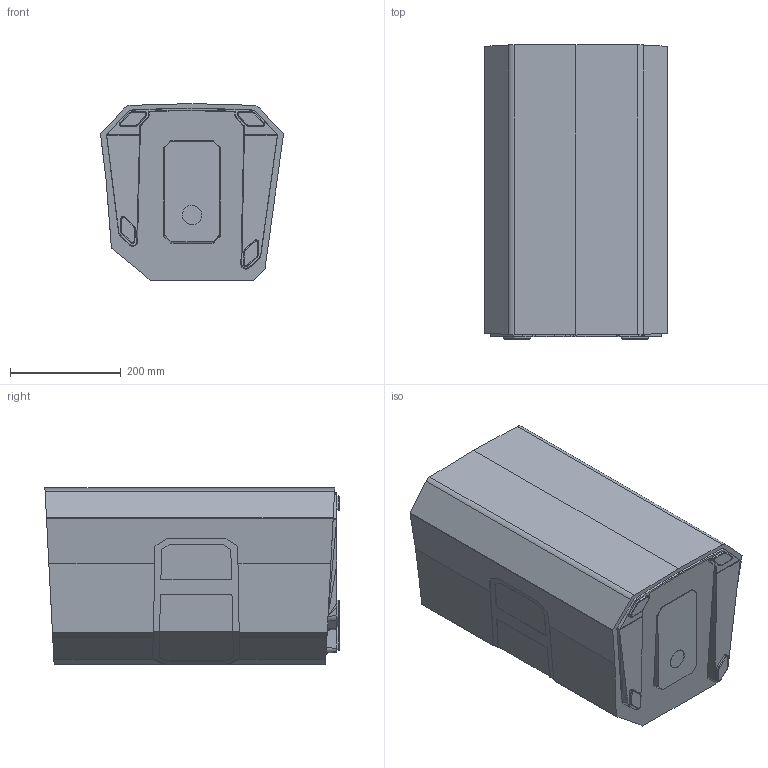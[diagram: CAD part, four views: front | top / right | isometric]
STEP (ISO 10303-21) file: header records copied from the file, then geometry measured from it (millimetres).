
FILE_DESCRIPTION (( 'STEP AP203' ), '1' );
FILE_NAME ('ELX200-10P_SIMPLIFIED.STEP', '2018-02-21T20:48:30', ( '' ), ( '' ), 'SwSTEP 2.0', 'SolidWorks 2016', '' );
FILE_SCHEMA (( 'CONFIG_CONTROL_DESIGN' ));
Length unit declared in the file: millimetre
Products named in the file (2): ELX200-10P_SIMPLIFIED
Bounding box: 329.94 x 530.92 x 319 mm (x, y, z)
Volume: 46658745 mm3; surface area: 781478.7 mm2
Topology: 1 solids, 1 shells, 304 faces, 812 edges, 507 vertices
Faces by surface type: plane 141, bspline 87, cylinder 36, torus 20, cone 20
Entity records: 10613 total; most frequent: CARTESIAN_POINT 3480, ORIENTED_EDGE 1596, DIRECTION 1220, EDGE_CURVE 798, VECTOR 554, LINE 554, VERTEX_POINT 507, AXIS2_PLACEMENT_3D 333
